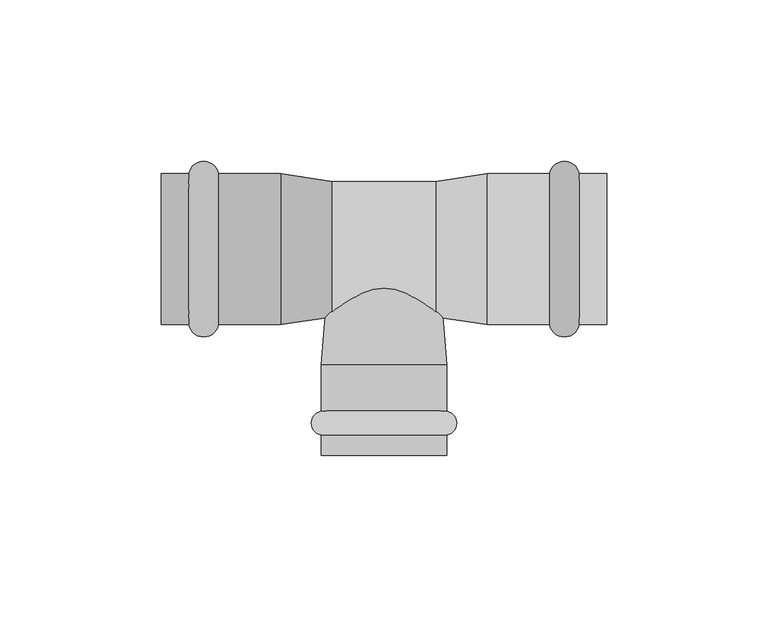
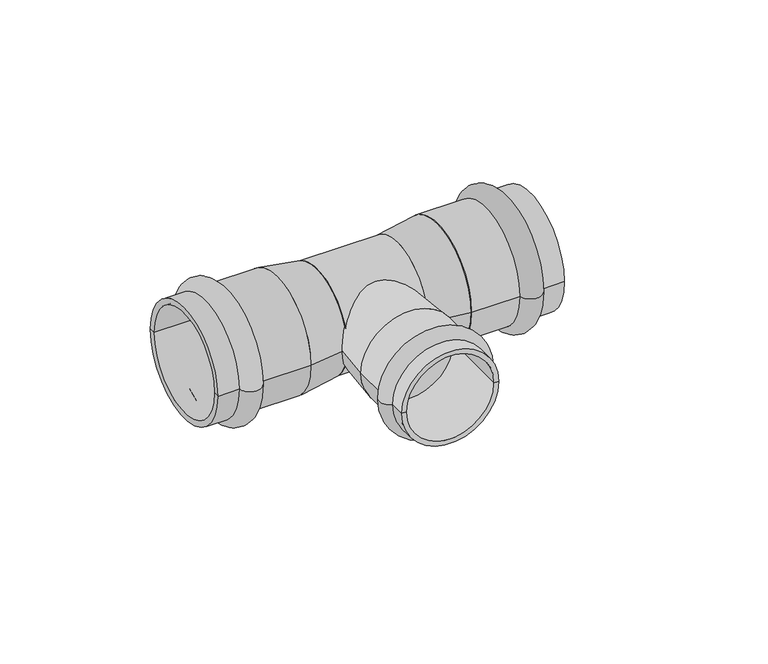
"""IFC4 building model written with IfcOpenShell, lengths in millimetres: pipe fitting geometry, VALTEC_VTi.931.I_Тройник_Ннержавеющая сталь : VTi.931.I."""

from ifc_helpers import new_model, si_unit, point, frame, origin, origin_2d, place, context, project, spatial, polyline, circle_curve, ellipse_curve, trimmed, segment, composite_curve, outline, extrude, source, transform, mapped, element, save
from ifc_brep_helpers import plane_surface, cylinder_surface, revolved_surface, advanced_brep


def pipe_fitting_7e9e407a(model_context):
    return source(origin(), model_context, "Body", "SolidModel", [
        advanced_brep(
        [(19.4, -57.6432371, 0.0), (-19.4, -57.6432371, 0.0), (-19.4, -50.2567629, 0.0), (19.4, -50.2567629, 0.0), (19.4, -64.0, 0.0), (-19.4, -64.0, 0.0), (17.5, -64.0, 0.0), (-17.5, -64.0, 0.0), (17.5, -36.0, 0.0), (-17.5, -36.0, 0.0), (19.4, -36.0, 0.0), (-19.4, -36.0, 0.0)],
        [
            (0, 1, circle_curve(frame((0.0, -57.6432371, 0.0), z_axis=(0.0, 1.0, 0.0), x_axis=(-1.0, 0.0, 0.0)), 19.4)),
            (1, 2, circle_curve(frame((-18.75, -53.95, 0.0), z_axis=(0.0, 0.0, -1.0), x_axis=(0.0, 1.0, 0.0)), 3.75)),
            (2, 3, circle_curve(frame((0.0, -50.2567629, 0.0), z_axis=(0.0, -1.0, 0.0), x_axis=(-1.0, 0.0, 0.0)), 19.4)),
            (3, 0, circle_curve(frame((18.75, -53.95, 0.0), z_axis=(0.0, 0.0, -1.0), x_axis=(0.0, 1.0, 0.0)), 3.75)),
            (1, 0, circle_curve(frame((0.0, -57.6432371, 0.0), z_axis=(0.0, 1.0, 0.0), x_axis=(-1.0, 0.0, 0.0)), 19.4)),
            (3, 2, circle_curve(frame((0.0, -50.2567629, 0.0), z_axis=(0.0, -1.0, 0.0), x_axis=(-1.0, 0.0, 0.0)), 19.4)),
            (4, 5, circle_curve(frame((0.0, -64.0, 0.0), z_axis=(0.0, 1.0, 0.0), x_axis=(-1.0, 0.0, 0.0)), 19.4)),
            (5, 1),
            (0, 4),
            (5, 4, circle_curve(frame((0.0, -64.0, 0.0), z_axis=(0.0, 1.0, 0.0), x_axis=(-1.0, 0.0, 0.0)), 19.4)),
            (6, 7, circle_curve(frame((0.0, -64.0, 0.0), z_axis=(0.0, 1.0, 0.0), x_axis=(-1.0, 0.0, 0.0)), 17.5)),
            (7, 5),
            (4, 6),
            (7, 6, circle_curve(frame((0.0, -64.0, 0.0), z_axis=(0.0, 1.0, 0.0), x_axis=(-1.0, 0.0, 0.0)), 17.5)),
            (8, 9, circle_curve(frame((0.0, -36.0, 0.0), z_axis=(0.0, 1.0, 0.0), x_axis=(-1.0, 0.0, 0.0)), 17.5)),
            (9, 7),
            (6, 8),
            (9, 8, circle_curve(frame((0.0, -36.0, 0.0), z_axis=(0.0, 1.0, 0.0), x_axis=(-1.0, 0.0, 0.0)), 17.5)),
            (10, 11, circle_curve(frame((0.0, -36.0, 0.0), z_axis=(0.0, 1.0, 0.0), x_axis=(-1.0, 0.0, 0.0)), 19.4)),
            (11, 9),
            (8, 10),
            (11, 10, circle_curve(frame((0.0, -36.0, 0.0), z_axis=(0.0, 1.0, 0.0), x_axis=(-1.0, 0.0, 0.0)), 19.4)),
            (2, 11),
            (10, 3),
        ],
        [
            revolved_surface(trimmed(ellipse_curve(frame((-18.75, -53.95, 0.0), z_axis=(0.0, 0.0, 1.0), x_axis=(0.0, 1.0, 0.0)), 3.75, 3.75), [point((-19.4, -50.2567629, 0.0))], [point((-19.4, -57.6432371, 0.0))], True, "CARTESIAN"), (0.0, -67.5364426, 0.0), (0.0, -1.0, 0.0)),
            cylinder_surface(frame((0.0, -67.5364426, 0.0), z_axis=(0.0, -1.0, 0.0), x_axis=(-1.0, 0.0, 0.0)), 19.4),
            plane_surface(frame((0.0, -64.0, 0.0), z_axis=(0.0, -1.0, 0.0), x_axis=(-1.0, 0.0, 0.0))),
            revolved_surface(polyline([(-17.5, -64.0, 0.0), (-17.5, -36.0, 0.0)]), (0.0, -67.5364426, 0.0), (0.0, -1.0, 0.0)),
            plane_surface(frame((0.0, -36.0, 0.0), z_axis=(0.0, 1.0, 0.0), x_axis=(-1.0, 0.0, 0.0))),
        ],
        [
            (0, [[1, 2, 3, 4]]),
            (0, [[5, -4, 6, -2]]),
            (1, [[7, 8, -1, 9]]),
            (1, [[10, -9, -5, -8]]),
            (2, [[11, 12, -7, 13]]),
            (2, [[14, -13, -10, -12]]),
            (3, [[15, 16, -11, 17]]),
            (3, [[18, -17, -14, -16]]),
            (4, [[19, 20, -15, 21]]),
            (4, [[22, -21, -18, -20]]),
            (1, [[-3, 23, -19, 24]]),
            (1, [[-6, -24, -22, -23]]),
        ],
    ),
        advanced_brep(
        [(60.4464272, 23.35, 0.0), (60.4464272, -23.35, 0.0), (51.3535728, -23.35, 0.0), (51.3535728, 23.35, 0.0), (69.0, 23.35, 0.0), (69.0, -23.35, 0.0), (69.0, 21.0, 0.0), (69.0, -21.0, 0.0), (32.0, 21.0, 0.0), (32.0, -21.0, 0.0), (32.0, 23.35, 0.0), (32.0, -23.35, 0.0)],
        [
            (0, 1, circle_curve(frame((60.4464272, 0.0, 0.0), z_axis=(-1.0, 0.0, 0.0), x_axis=(0.0, -1.0, 0.0)), 23.35)),
            (1, 2, circle_curve(frame((55.9, -22.65, 0.0), z_axis=(0.0, 0.0, -1.0), x_axis=(-1.0, 0.0, 0.0)), 4.6)),
            (2, 3, circle_curve(frame((51.3535728, 0.0, 0.0), z_axis=(1.0, 0.0, 0.0), x_axis=(0.0, -1.0, 0.0)), 23.35)),
            (3, 0, circle_curve(frame((55.9, 22.65, 0.0), z_axis=(0.0, 0.0, -1.0), x_axis=(-1.0, 0.0, 0.0)), 4.6)),
            (1, 0, circle_curve(frame((60.4464272, 0.0, 0.0), z_axis=(-1.0, 0.0, 0.0), x_axis=(0.0, -1.0, 0.0)), 23.35)),
            (3, 2, circle_curve(frame((51.3535728, 0.0, 0.0), z_axis=(1.0, 0.0, 0.0), x_axis=(0.0, -1.0, 0.0)), 23.35)),
            (4, 5, circle_curve(frame((69.0, 0.0, 0.0), z_axis=(-1.0, 0.0, 0.0), x_axis=(0.0, -1.0, 0.0)), 23.35)),
            (5, 1),
            (0, 4),
            (5, 4, circle_curve(frame((69.0, 0.0, 0.0), z_axis=(-1.0, 0.0, 0.0), x_axis=(0.0, -1.0, 0.0)), 23.35)),
            (6, 7, circle_curve(frame((69.0, 0.0, 0.0), z_axis=(-1.0, 0.0, 0.0), x_axis=(0.0, -1.0, 0.0)), 21.0)),
            (7, 5),
            (4, 6),
            (7, 6, circle_curve(frame((69.0, 0.0, 0.0), z_axis=(-1.0, 0.0, 0.0), x_axis=(0.0, -1.0, 0.0)), 21.0)),
            (8, 9, circle_curve(frame((32.0, 0.0, 0.0), z_axis=(-1.0, 0.0, 0.0), x_axis=(0.0, -1.0, 0.0)), 21.0)),
            (9, 7),
            (6, 8),
            (9, 8, circle_curve(frame((32.0, 0.0, 0.0), z_axis=(-1.0, 0.0, 0.0), x_axis=(0.0, -1.0, 0.0)), 21.0)),
            (10, 11, circle_curve(frame((32.0, 0.0, 0.0), z_axis=(-1.0, 0.0, 0.0), x_axis=(0.0, -1.0, 0.0)), 23.35)),
            (11, 9),
            (8, 10),
            (11, 10, circle_curve(frame((32.0, 0.0, 0.0), z_axis=(-1.0, 0.0, 0.0), x_axis=(0.0, -1.0, 0.0)), 23.35)),
            (2, 11),
            (10, 3),
        ],
        [
            revolved_surface(trimmed(ellipse_curve(frame((55.9, -22.65, 0.0), z_axis=(0.0, 0.0, 1.0), x_axis=(-1.0, 0.0, 0.0)), 4.6, 4.6), [point((51.3535728, -23.35, 0.0))], [point((60.4464272, -23.35, 0.0))], True, "CARTESIAN"), (72.5364426, 0.0, 0.0), (1.0, 0.0, 0.0)),
            cylinder_surface(frame((72.5364426, 0.0, 0.0), z_axis=(1.0, 0.0, 0.0), x_axis=(0.0, -1.0, 0.0)), 23.35),
            plane_surface(frame((69.0, 0.0, 0.0), z_axis=(1.0, 0.0, 0.0), x_axis=(0.0, -1.0, 0.0))),
            revolved_surface(polyline([(69.0, -21.0, 0.0), (32.0, -21.0, 0.0)]), (72.5364426, 0.0, 0.0), (1.0, 0.0, 0.0)),
            plane_surface(frame((32.0, 0.0, 0.0), z_axis=(-1.0, 0.0, 0.0), x_axis=(0.0, -1.0, 0.0))),
        ],
        [
            (0, [[1, 2, 3, 4]]),
            (0, [[5, -4, 6, -2]]),
            (1, [[7, 8, -1, 9]]),
            (1, [[10, -9, -5, -8]]),
            (2, [[11, 12, -7, 13]]),
            (2, [[14, -13, -10, -12]]),
            (3, [[15, 16, -11, 17]]),
            (3, [[18, -17, -14, -16]]),
            (4, [[19, 20, -15, 21]]),
            (4, [[22, -21, -18, -20]]),
            (1, [[-3, 23, -19, 24]]),
            (1, [[-6, -24, -22, -23]]),
        ],
    ),
        advanced_brep(
        [(-60.4464272, -23.35, 0.0), (-60.4464272, 23.35, 0.0), (-51.3535728, 23.35, 0.0), (-51.3535728, -23.35, 0.0), (-69.0, -23.35, 0.0), (-69.0, 23.35, 0.0), (-69.0, -21.0, 0.0), (-69.0, 21.0, 0.0), (-32.0, -21.0, 0.0), (-32.0, 21.0, 0.0), (-32.0, -23.35, 0.0), (-32.0, 23.35, 0.0)],
        [
            (0, 1, circle_curve(frame((-60.4464272, 0.0, 0.0), z_axis=(1.0, 0.0, 0.0), x_axis=(0.0, 1.0, 0.0)), 23.35)),
            (1, 2, circle_curve(frame((-55.9, 22.65, 0.0), z_axis=(0.0, 0.0, -1.0), x_axis=(1.0, 0.0, 0.0)), 4.6)),
            (2, 3, circle_curve(frame((-51.3535728, 0.0, 0.0), z_axis=(-1.0, 0.0, 0.0), x_axis=(0.0, 1.0, 0.0)), 23.35)),
            (3, 0, circle_curve(frame((-55.9, -22.65, 0.0), z_axis=(0.0, 0.0, -1.0), x_axis=(1.0, 0.0, 0.0)), 4.6)),
            (1, 0, circle_curve(frame((-60.4464272, 0.0, 0.0), z_axis=(1.0, 0.0, 0.0), x_axis=(0.0, 1.0, 0.0)), 23.35)),
            (3, 2, circle_curve(frame((-51.3535728, 0.0, 0.0), z_axis=(-1.0, 0.0, 0.0), x_axis=(0.0, 1.0, 0.0)), 23.35)),
            (4, 5, circle_curve(frame((-69.0, 0.0, 0.0), z_axis=(1.0, 0.0, 0.0), x_axis=(0.0, 1.0, 0.0)), 23.35)),
            (5, 1),
            (0, 4),
            (5, 4, circle_curve(frame((-69.0, 0.0, 0.0), z_axis=(1.0, 0.0, 0.0), x_axis=(0.0, 1.0, 0.0)), 23.35)),
            (6, 7, circle_curve(frame((-69.0, 0.0, 0.0), z_axis=(1.0, 0.0, 0.0), x_axis=(0.0, 1.0, 0.0)), 21.0)),
            (7, 5),
            (4, 6),
            (7, 6, circle_curve(frame((-69.0, 0.0, 0.0), z_axis=(1.0, 0.0, 0.0), x_axis=(0.0, 1.0, 0.0)), 21.0)),
            (8, 9, circle_curve(frame((-32.0, 0.0, 0.0), z_axis=(1.0, 0.0, 0.0), x_axis=(0.0, 1.0, 0.0)), 21.0)),
            (9, 7),
            (6, 8),
            (9, 8, circle_curve(frame((-32.0, 0.0, 0.0), z_axis=(1.0, 0.0, 0.0), x_axis=(0.0, 1.0, 0.0)), 21.0)),
            (10, 11, circle_curve(frame((-32.0, 0.0, 0.0), z_axis=(1.0, 0.0, 0.0), x_axis=(0.0, 1.0, 0.0)), 23.35)),
            (11, 9),
            (8, 10),
            (11, 10, circle_curve(frame((-32.0, 0.0, 0.0), z_axis=(1.0, 0.0, 0.0), x_axis=(0.0, 1.0, 0.0)), 23.35)),
            (2, 11),
            (10, 3),
        ],
        [
            revolved_surface(trimmed(ellipse_curve(frame((-55.9, 22.65, 0.0), z_axis=(0.0, 0.0, 1.0), x_axis=(1.0, 0.0, 0.0)), 4.6, 4.6), [point((-51.3535728, 23.35, 0.0))], [point((-60.4464272, 23.35, 0.0))], True, "CARTESIAN"), (-72.5364426, 0.0, 0.0), (-1.0, 0.0, 0.0)),
            cylinder_surface(frame((-72.5364426, 0.0, 0.0), z_axis=(-1.0, 0.0, 0.0), x_axis=(0.0, 1.0, 0.0)), 23.35),
            plane_surface(frame((-69.0, 0.0, 0.0), z_axis=(-1.0, 0.0, 0.0), x_axis=(0.0, 1.0, 0.0))),
            revolved_surface(polyline([(-69.0, 21.0, 0.0), (-32.0, 21.0, 0.0)]), (-72.5364426, 0.0, 0.0), (-1.0, 0.0, 0.0)),
            plane_surface(frame((-32.0, 0.0, 0.0), z_axis=(1.0, 0.0, 0.0), x_axis=(0.0, 1.0, 0.0))),
        ],
        [
            (0, [[1, 2, 3, 4]]),
            (0, [[5, -4, 6, -2]]),
            (1, [[7, 8, -1, 9]]),
            (1, [[10, -9, -5, -8]]),
            (2, [[11, 12, -7, 13]]),
            (2, [[14, -13, -10, -12]]),
            (3, [[15, 16, -11, 17]]),
            (3, [[18, -17, -14, -16]]),
            (4, [[19, 20, -15, 21]]),
            (4, [[22, -21, -18, -20]]),
            (1, [[-3, 23, -19, 24]]),
            (1, [[-6, -24, -22, -23]]),
        ],
    ),
        extrude(outline(composite_curve([segment(trimmed(circle_curve(origin_2d(), 21.0), [point((-21.0, 0.0))], [point((21.0, 0.0))], False, "CARTESIAN"), True, "CONTINUOUS"), segment(trimmed(circle_curve(origin_2d(), 21.0), [point((21.0, 0.0))], [point((-21.0, 0.0))], False, "CARTESIAN"), True, "CONTINUOUS")], self_intersect=False)), frame((-16.0, 0.0, 0.0), z_axis=(1.0, 0.0, 0.0), x_axis=(0.0, 1.0, 0.0)), (0.0, 0.0, 1.0), 32.0),
        advanced_brep(
        [(-19.4, -36.0, 0.0), (19.4, -36.0, 0.0), (-17.5, -11.3209826, 0.0), (17.5, -11.3209826, 0.0)],
        [
            (0, 1, circle_curve(frame((0.0, -36.0, 0.0), z_axis=(0.0, -1.0, 0.0), x_axis=(-1.0, 0.0, 0.0)), 19.4)),
            (1, 0, circle_curve(frame((0.0, -36.0, 0.0), z_axis=(0.0, -1.0, 0.0), x_axis=(1.0, 0.0, 0.0)), 19.4)),
            (2, 3, circle_curve(frame((0.0, -11.3209826, 0.0), z_axis=(0.0, 1.0, 0.0), x_axis=(1.0, 0.0, 0.0)), 17.5)),
            (3, 2, circle_curve(frame((0.0, -11.3209826, 0.0), z_axis=(0.0, 1.0, 0.0), x_axis=(-1.0, 0.0, 0.0)), 17.5)),
            (3, 1),
            (0, 2),
        ],
        [
            plane_surface(frame((0.0, -36.0, 0.0), z_axis=(0.0, -1.0, 0.0), x_axis=(0.0, 0.0, 1.0))),
            plane_surface(frame((0.0, -11.3209826, 0.0), z_axis=(0.0, 1.0, 0.0), x_axis=(0.0, 0.0, 1.0))),
            revolved_surface(polyline([(17.50000000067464, -11.320982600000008, 0.0), (19.4, -36.0, 0.0)]), (0.0, 215.9857567, 0.0), (0.0, -1.0, 0.0)),
            revolved_surface(polyline([(-17.50000000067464, -11.320982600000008, 0.0), (-19.4, -36.0, 0.0)]), (0.0, 215.9857567, 0.0), (0.0, -1.0, 0.0)),
        ],
        [
            (0, [[1, 2]]),
            (1, [[3, 4]]),
            (2, [[-4, 5, -1, 6]]),
            (3, [[-3, -6, -2, -5]]),
        ],
    ),
        extrude(outline(composite_curve([segment(trimmed(circle_curve(origin_2d(), 17.5), [point((0.0, -17.5))], [point((0.0, 17.5))], False, "CARTESIAN"), True, "CONTINUOUS"), segment(trimmed(circle_curve(origin_2d(), 17.5), [point((0.0, 17.5))], [point((0.0, -17.5))], False, "CARTESIAN"), True, "CONTINUOUS")], self_intersect=False)), frame((0.0, -11.3209826, 0.0), z_axis=(0.0, 1.0, 0.0), x_axis=(0.0, 0.0, 1.0)), (0.0, 0.0, 1.0), 11.3209826),
        advanced_brep(
        [(32.0, -23.35, 0.0), (32.0, 23.35, 0.0), (16.0, -21.0, 0.0), (16.0, 21.0, 0.0)],
        [
            (0, 1, circle_curve(frame((32.0, 0.0, 0.0), z_axis=(1.0, 0.0, 0.0), x_axis=(0.0, -1.0, 0.0)), 23.35)),
            (1, 0, circle_curve(frame((32.0, 0.0, 0.0), z_axis=(1.0, 0.0, 0.0), x_axis=(0.0, 1.0, 0.0)), 23.35)),
            (2, 3, circle_curve(frame((16.0, 0.0, 0.0), z_axis=(-1.0, 0.0, 0.0), x_axis=(0.0, 1.0, 0.0)), 21.0)),
            (3, 2, circle_curve(frame((16.0, 0.0, 0.0), z_axis=(-1.0, 0.0, 0.0), x_axis=(0.0, -1.0, 0.0)), 21.0)),
            (3, 1),
            (0, 2),
        ],
        [
            plane_surface(frame((32.0, 0.0, 0.0), z_axis=(1.0, 0.0, 0.0), x_axis=(0.0, 0.0, 1.0))),
            plane_surface(frame((16.0, 0.0, 0.0), z_axis=(-1.0, 0.0, 0.0), x_axis=(0.0, 0.0, 1.0))),
            revolved_surface(polyline([(16.0, 20.9999999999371, 0.0), (32.0, 23.35, 0.0)]), (-126.9787234, 0.0, 0.0), (1.0, 0.0, 0.0)),
            revolved_surface(polyline([(16.0, -20.9999999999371, 0.0), (32.0, -23.35, 0.0)]), (-126.9787234, 0.0, 0.0), (1.0, 0.0, 0.0)),
        ],
        [
            (0, [[1, 2]]),
            (1, [[3, 4]]),
            (2, [[-4, 5, -1, 6]]),
            (3, [[-3, -6, -2, -5]]),
        ],
    ),
        advanced_brep(
        [(-32.0, -23.35, 0.0), (-32.0, 23.35, 0.0), (-16.0, -21.0, 0.0), (-16.0, 21.0, 0.0)],
        [
            (0, 1, circle_curve(frame((-32.0, 0.0, 0.0), z_axis=(-1.0, 0.0, 0.0), x_axis=(0.0, -1.0, 0.0)), 23.35)),
            (1, 0, circle_curve(frame((-32.0, 0.0, 0.0), z_axis=(-1.0, 0.0, 0.0), x_axis=(0.0, 1.0, 0.0)), 23.35)),
            (2, 3, circle_curve(frame((-16.0, 0.0, 0.0), z_axis=(1.0, 0.0, 0.0), x_axis=(0.0, 1.0, 0.0)), 21.0)),
            (3, 2, circle_curve(frame((-16.0, 0.0, 0.0), z_axis=(1.0, 0.0, 0.0), x_axis=(0.0, -1.0, 0.0)), 21.0)),
            (2, 0),
            (1, 3),
        ],
        [
            plane_surface(frame((-32.0, 0.0, 0.0), z_axis=(-1.0, 0.0, 0.0), x_axis=(0.0, 0.0, -1.0))),
            plane_surface(frame((-16.0, 0.0, 0.0), z_axis=(1.0, 0.0, 0.0), x_axis=(0.0, 0.0, -1.0))),
            revolved_surface(polyline([(-16.0, -20.9999999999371, 0.0), (-32.0, -23.35, 0.0)]), (126.9787234, 0.0, 0.0), (-1.0, 0.0, 0.0)),
            revolved_surface(polyline([(-16.0, 20.9999999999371, 0.0), (-32.0, 23.35, 0.0)]), (126.9787234, 0.0, 0.0), (-1.0, 0.0, 0.0)),
        ],
        [
            (0, [[1, 2]]),
            (1, [[3, 4]]),
            (2, [[-3, 5, -2, 6]]),
            (3, [[-4, -6, -1, -5]]),
        ],
    ),
    ])


if __name__ == "__main__":
    model = new_model("IFC4")
    model_context = context("Model", 3, world=origin())
    ifc_project = project(units=[si_unit("LENGTHUNIT", "METRE", prefix="MILLI")], contexts=[model_context])
    site = spatial("IfcSite", under=ifc_project)
    building = spatial("IfcBuilding", under=site)
    placement = place(None, origin())
    pipe_fitting_shape = pipe_fitting_7e9e407a(model_context)
    element("IfcPipeFitting", 1, ObjectType="VALTEC_VTi.931.I_Тройник_Ннержавеющая сталь : VTi.931.I", at=placement, inside=building, context=model_context, shape_type="MappedRepresentation", body=[
        mapped(pipe_fitting_shape, transform((0.0, 0.0, 0.0), x_axis=(1.0, 0.0, 0.0), y_axis=(0.0, 1.0, 0.0), z_axis=(0.0, 0.0, 1.0))),
    ])
    save(model, "model.ifc")
